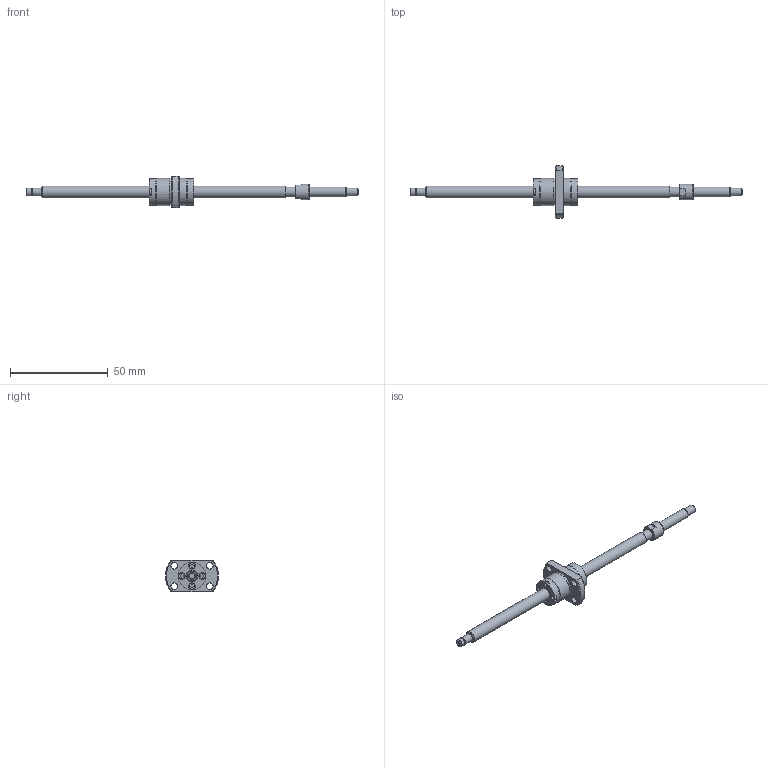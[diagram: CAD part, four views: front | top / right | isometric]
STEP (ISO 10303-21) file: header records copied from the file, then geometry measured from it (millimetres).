
FILE_DESCRIPTION(/* description */ ('STEP AP214'),/* implementation_level */ '2;1');
FILE_NAME(/* name */ 'SG0610-125R170C5B0X(55)',/* time_stamp */ '2026-07-20T20:20:15+02:00',/* author */ ('License CC BY-ND 4.0'),/* organization */ ('CADENAS'),/* preprocessor_version */ 'ST-DEVELOPER v20',/* originating_system */ 'PARTsolutions',/* authorisation */ ' ');
FILE_SCHEMA (('AUTOMOTIVE_DESIGN {1 0 10303 214 3 1 1}'));
Length unit declared in the file: millimetre
Products named in the file (3): SG0610-125R170C5B0X(55); SG0610-125R170C5B_shaft; SG0610 C5_nut
Assembly tree (2 placements, depth 2):
  SG0610-125R170C5B0X(55)
    SG0610-125R170C5B_shaft
    SG0610 C5_nut
Bounding box: 170 x 27 x 16 mm (x, y, z)
Volume: 8191.2 mm3; surface area: 5714.6 mm2
Topology: 2 solids, 2 shells, 106 faces, 238 edges, 156 vertices
Faces by surface type: plane 66, cylinder 28, cone 11, torus 1
Full cylindrical faces by diameter (mm): 3 x4, 3.4 x4, 3.7 x1, 4 x3, 5 x2, 6 x2, 8 x1, 13.6 x1, 13.8 x2, 14 x2
Entity records: 2891 total; most frequent: DIRECTION 494, CARTESIAN_POINT 493, ORIENTED_EDGE 412, EDGE_CURVE 206, AXIS2_PLACEMENT_3D 187, EDGE_LOOP 166, FACE_BOUND 166, VERTEX_POINT 154
